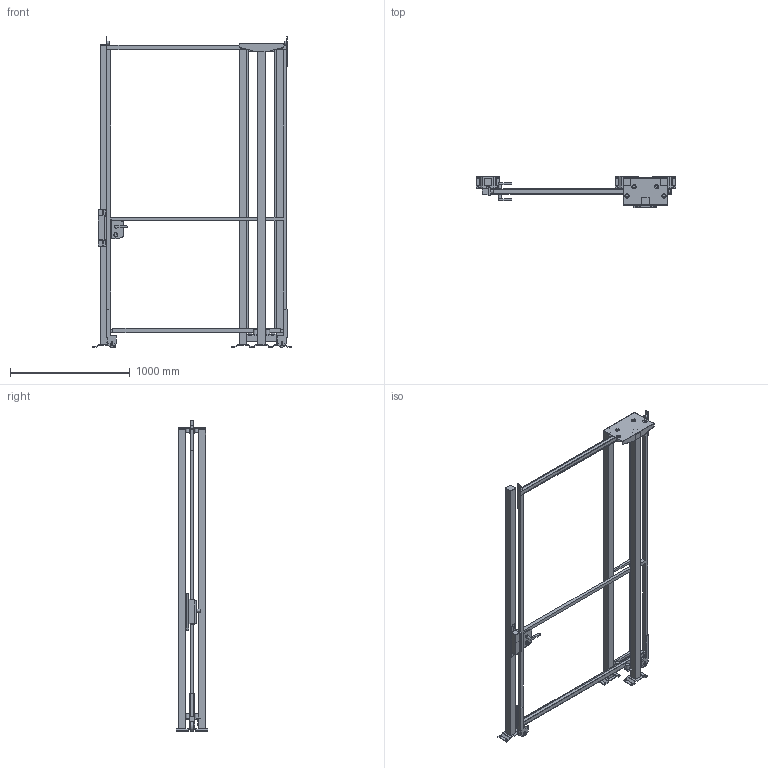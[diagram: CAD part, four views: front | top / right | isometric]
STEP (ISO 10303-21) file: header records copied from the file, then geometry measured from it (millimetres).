
FILE_DESCRIPTION(/* description */ (''),/* implementation_level */ '2;1');
FILE_NAME(/* name */ 'C:\SafeGuarding\ELABORATI\KLADKOUGAMMA_2025-03-21-10-14-00.stp',/* time_stamp */ '2025-03-21T10:14:04+01:00',/* author */ ('admin'),/* organization */ (''),/* preprocessor_version */ 'ST-DEVELOPER v18.1',/* originating_system */ 'AutoCAD Mechanical',/* authorisation */ '');
FILE_SCHEMA (('AUTOMOTIVE_DESIGN { 1 0 10303 214 3 1 1 }'));
Length unit declared in the file: millimetre
Products named in the file (4): Product; VFPA.REPE30.15002400; VFPA.REPE2002502400; P_VFMA.V260SDU.2520
Assembly tree (6 placements, depth 2):
  Product
    VFPA.REPE30.15002400
    P_VFMA.V260SDU.2520  x4
    VFPA.REPE2002502400
Bounding box: 1661.91 x 264 x 2590.02 mm (x, y, z)
Volume: 51215157.4 mm3; surface area: 6425288.9 mm2
Topology: 54 solids, 54 shells, 540 faces, 1571 edges, 1446 vertices
Faces by surface type: plane 462, cylinder 74, bspline 4
Full cylindrical faces by diameter (mm): 9 x4, 11 x16, 13 x4, 18 x1, 25 x2, 25.398 x2, 30 x6, 36 x8, 80 x2
Entity records: 16037 total; most frequent: CARTESIAN_POINT 4195, DIRECTION 2363, ORIENTED_EDGE 2134, EDGE_CURVE 1067, LINE 1051, VECTOR 1051, VERTEX_POINT 718, AXIS2_PLACEMENT_3D 656
